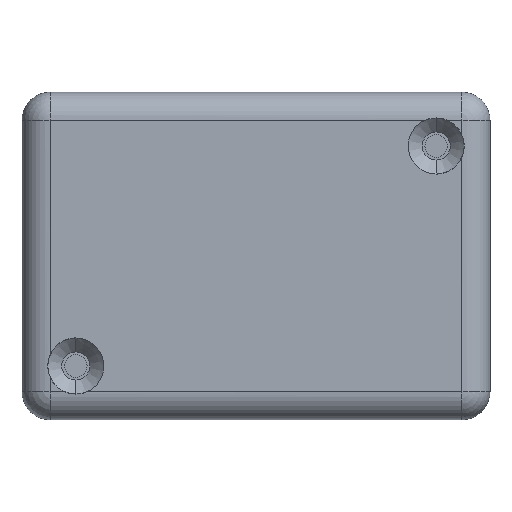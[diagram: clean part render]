
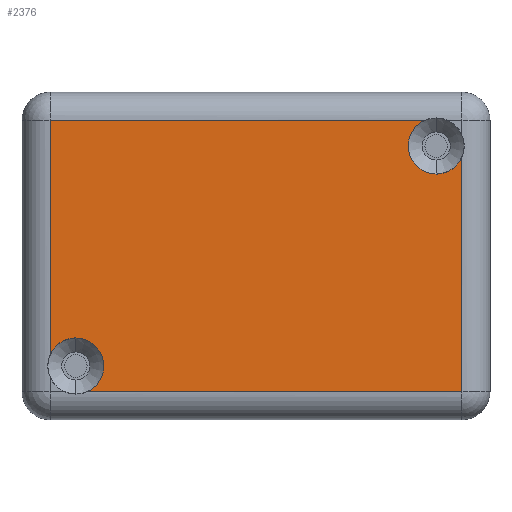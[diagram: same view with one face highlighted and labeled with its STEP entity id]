
A CAD part, front view. The second image highlights one B-rep face of the part: STEP entity #2376.
In plain terms, the highlighted planar face has unit normal (0, -1, 0).
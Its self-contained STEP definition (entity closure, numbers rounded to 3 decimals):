
#106 = DIRECTION ( 'NONE',  ( 0., 0., 1. ) ) ;
#126 = DIRECTION ( 'NONE',  ( 0., -1., 0. ) ) ;
#181 = CARTESIAN_POINT ( 'NONE',  ( -19.25, -3., -11.75 ) ) ;
#247 = CIRCLE ( 'NONE', #2353, 3. ) ;
#263 = CARTESIAN_POINT ( 'NONE',  ( -19.25, -3., -8.75 ) ) ;
#396 = LINE ( 'NONE', #1820, #965 ) ;
#445 = AXIS2_PLACEMENT_3D ( 'NONE', #3240, #126, #2343 ) ;
#450 = EDGE_CURVE ( 'NONE', #950, #538, #396, .T. ) ;
#474 = EDGE_CURVE ( 'NONE', #3993, #1256, #2428, .T. ) ;
#501 = DIRECTION ( 'NONE',  ( 0., 0., -1. ) ) ;
#538 = VERTEX_POINT ( 'NONE', #2739 ) ;
#543 = CARTESIAN_POINT ( 'NONE',  ( 19.25, -3., 8.75 ) ) ;
#554 = CARTESIAN_POINT ( 'NONE',  ( -22., -3., 14.5 ) ) ;
#559 = CARTESIAN_POINT ( 'NONE',  ( 22., -3., 10.551 ) ) ;
#590 = VERTEX_POINT ( 'NONE', #559 ) ;
#840 = EDGE_CURVE ( 'NONE', #3025, #590, #2910, .T. ) ;
#847 = CARTESIAN_POINT ( 'NONE',  ( 19.25, -3., 11.75 ) ) ;
#867 = ORIENTED_EDGE ( 'NONE', *, *, #474, .F. ) ;
#876 = DIRECTION ( 'NONE',  ( 0., 0., -1. ) ) ;
#902 = CIRCLE ( 'NONE', #3874, 3. ) ;
#911 = AXIS2_PLACEMENT_3D ( 'NONE', #181, #2095, #501 ) ;
#950 = VERTEX_POINT ( 'NONE', #1160 ) ;
#957 = ORIENTED_EDGE ( 'NONE', *, *, #1577, .T. ) ;
#965 = VECTOR ( 'NONE', #3966, 1000. ) ;
#1055 = VERTEX_POINT ( 'NONE', #554 ) ;
#1115 = CARTESIAN_POINT ( 'NONE',  ( 19.25, -3., 11.75 ) ) ;
#1160 = CARTESIAN_POINT ( 'NONE',  ( -18.051, -3., -14.5 ) ) ;
#1197 = EDGE_CURVE ( 'NONE', #950, #3993, #902, .T. ) ;
#1256 = VERTEX_POINT ( 'NONE', #1649 ) ;
#1361 = DIRECTION ( 'NONE',  ( 0., 0., -1. ) ) ;
#1375 = DIRECTION ( 'NONE',  ( 0., -1., 0. ) ) ;
#1436 = DIRECTION ( 'NONE',  ( 0., 0., -1. ) ) ;
#1483 = ORIENTED_EDGE ( 'NONE', *, *, #450, .T. ) ;
#1564 = CARTESIAN_POINT ( 'NONE',  ( -19.25, -3., -11.75 ) ) ;
#1577 = EDGE_CURVE ( 'NONE', #538, #590, #2703, .T. ) ;
#1649 = CARTESIAN_POINT ( 'NONE',  ( -22., -3., -10.551 ) ) ;
#1723 = CARTESIAN_POINT ( 'NONE',  ( 22., -3., -14.5 ) ) ;
#1750 = EDGE_CURVE ( 'NONE', #2944, #3025, #247, .T. ) ;
#1820 = CARTESIAN_POINT ( 'NONE',  ( 22., -3., -14.5 ) ) ;
#2047 = PLANE ( 'NONE',  #445 ) ;
#2095 = DIRECTION ( 'NONE',  ( 0., -1., 0. ) ) ;
#2166 = ORIENTED_EDGE ( 'NONE', *, *, #3067, .T. ) ;
#2263 = ORIENTED_EDGE ( 'NONE', *, *, #1197, .F. ) ;
#2269 = LINE ( 'NONE', #3556, #3074 ) ;
#2311 = AXIS2_PLACEMENT_3D ( 'NONE', #1115, #3269, #1436 ) ;
#2325 = EDGE_LOOP ( 'NONE', ( #2263, #1483, #957, #2413, #2634, #2521, #2166, #867 ) ) ;
#2343 = DIRECTION ( 'NONE',  ( 0., 0., -1. ) ) ;
#2353 = AXIS2_PLACEMENT_3D ( 'NONE', #847, #3033, #876 ) ;
#2376 = ADVANCED_FACE ( 'NONE', ( #3078 ), #2047, .T. ) ;
#2402 = VECTOR ( 'NONE', #2756, 1000. ) ;
#2413 = ORIENTED_EDGE ( 'NONE', *, *, #840, .F. ) ;
#2428 = CIRCLE ( 'NONE', #911, 3. ) ;
#2499 = LINE ( 'NONE', #3346, #2402 ) ;
#2513 = VECTOR ( 'NONE', #106, 1000. ) ;
#2521 = ORIENTED_EDGE ( 'NONE', *, *, #3763, .T. ) ;
#2634 = ORIENTED_EDGE ( 'NONE', *, *, #1750, .F. ) ;
#2698 = CARTESIAN_POINT ( 'NONE',  ( 18.051, -3., 14.5 ) ) ;
#2703 = LINE ( 'NONE', #1723, #2513 ) ;
#2739 = CARTESIAN_POINT ( 'NONE',  ( 22., -3., -14.5 ) ) ;
#2756 = DIRECTION ( 'NONE',  ( 0., 0., -1. ) ) ;
#2910 = CIRCLE ( 'NONE', #2311, 3. ) ;
#2944 = VERTEX_POINT ( 'NONE', #2698 ) ;
#3025 = VERTEX_POINT ( 'NONE', #543 ) ;
#3033 = DIRECTION ( 'NONE',  ( 0., -1., 0. ) ) ;
#3067 = EDGE_CURVE ( 'NONE', #1055, #1256, #2499, .T. ) ;
#3074 = VECTOR ( 'NONE', #3870, 1000. ) ;
#3078 = FACE_OUTER_BOUND ( 'NONE', #2325, .T. ) ;
#3240 = CARTESIAN_POINT ( 'NONE',  ( 22., -3., -14.5 ) ) ;
#3269 = DIRECTION ( 'NONE',  ( 0., -1., 0. ) ) ;
#3346 = CARTESIAN_POINT ( 'NONE',  ( -22., -3., -14.5 ) ) ;
#3556 = CARTESIAN_POINT ( 'NONE',  ( 22., -3., 14.5 ) ) ;
#3763 = EDGE_CURVE ( 'NONE', #2944, #1055, #2269, .T. ) ;
#3870 = DIRECTION ( 'NONE',  ( -1., 0., 0. ) ) ;
#3874 = AXIS2_PLACEMENT_3D ( 'NONE', #1564, #1375, #1361 ) ;
#3966 = DIRECTION ( 'NONE',  ( 1., 0., 0. ) ) ;
#3993 = VERTEX_POINT ( 'NONE', #263 ) ;
